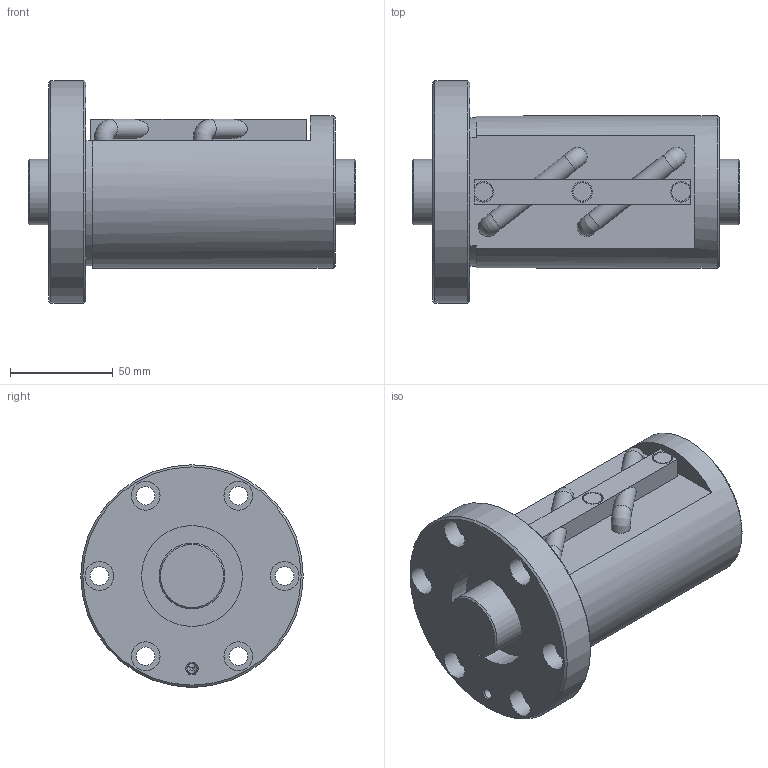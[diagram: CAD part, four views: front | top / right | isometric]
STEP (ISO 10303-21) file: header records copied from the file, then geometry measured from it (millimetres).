
FILE_DESCRIPTION(/* description */ ('STEP AP203'),/* implementation_level */ '2;1');
FILE_NAME(/* name */ 'BNF3216V-5RRG1+159LC0_000_rev',/* time_stamp */ '2024-08-06T08:38:04+02:00',/* author */ ('License CC BY-ND 4.0'),/* organization */ ('CADENAS'),/* preprocessor_version */ 'ST-DEVELOPER v19.3',/* originating_system */ 'PARTsolutions',/* authorisation */ ' ');
FILE_SCHEMA (('CONFIG_CONTROL_DESIGN'));
Length unit declared in the file: millimetre
Products named in the file (3): BNF3216V-5RRG1+159LC0_000_rev; BNF 3216V-5RR000 Shaft; BNF 3216V-5RR Nut
Assembly tree (2 placements, depth 2):
  BNF3216V-5RRG1+159LC0_000_rev
    BNF 3216V-5RR000 Shaft
    BNF 3216V-5RR Nut
Bounding box: 159 x 108 x 108 mm (x, y, z)
Volume: 635239.5 mm3; surface area: 91950.6 mm2
Topology: 2 solids, 2 shells, 87 faces, 204 edges, 129 vertices
Faces by surface type: plane 39, cylinder 37, cone 7, torus 4
Full cylindrical faces by diameter (mm): 4 x3, 4.917 x1, 9 x9, 9.3 x4, 10 x1, 14 x6, 32 x2, 49 x2, 74 x1, 108 x1
Entity records: 2403 total; most frequent: CARTESIAN_POINT 475, DIRECTION 416, ORIENTED_EDGE 300, AXIS2_PLACEMENT_3D 186, FACE_BOUND 159, EDGE_LOOP 158, EDGE_CURVE 150, VERTEX_POINT 115
